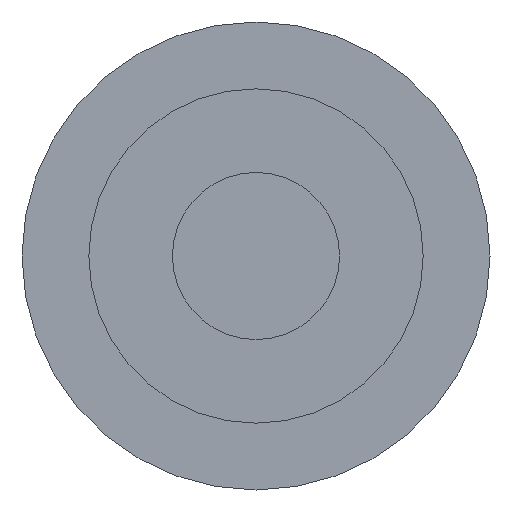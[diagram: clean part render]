
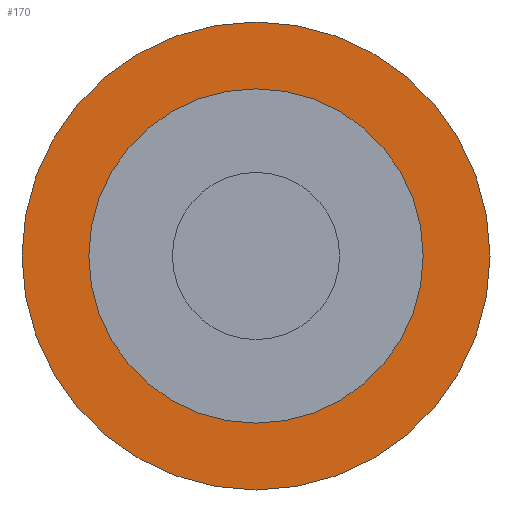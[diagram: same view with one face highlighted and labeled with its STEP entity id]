
A CAD part, front view. The second image highlights one B-rep face of the part: STEP entity #170.
In plain terms, the highlighted planar face has unit normal (0, -1, 0).
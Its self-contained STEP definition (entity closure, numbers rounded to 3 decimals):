
#41=FACE_BOUND('',#72,.T.);
#54=FACE_OUTER_BOUND('',#71,.T.);
#71=EDGE_LOOP('',(#149));
#72=EDGE_LOOP('',(#150));
#82=CIRCLE('',#206,2.5);
#84=CIRCLE('',#209,7.);
#94=VERTEX_POINT('',#303);
#96=VERTEX_POINT('',#309);
#111=EDGE_CURVE('',#94,#94,#82,.T.);
#114=EDGE_CURVE('',#96,#96,#84,.T.);
#149=ORIENTED_EDGE('',*,*,#114,.F.);
#150=ORIENTED_EDGE('',*,*,#111,.F.);
#157=PLANE('',#211);
#170=ADVANCED_FACE('',(#54,#41),#157,.F.);
#206=AXIS2_PLACEMENT_3D('',#305,#257,#258);
#209=AXIS2_PLACEMENT_3D('',#311,#264,#265);
#211=AXIS2_PLACEMENT_3D('',#313,#268,#269);
#257=DIRECTION('center_axis',(0.,-1.,0.));
#258=DIRECTION('ref_axis',(-1.,0.,0.));
#264=DIRECTION('center_axis',(0.,1.,0.));
#265=DIRECTION('ref_axis',(-1.,0.,0.));
#268=DIRECTION('center_axis',(0.,1.,0.));
#269=DIRECTION('ref_axis',(-1.,0.,0.));
#303=CARTESIAN_POINT('',(2.5,20.,0.));
#305=CARTESIAN_POINT('Origin',(0.,20.,0.));
#309=CARTESIAN_POINT('',(7.,20.,0.));
#311=CARTESIAN_POINT('Origin',(0.,20.,0.));
#313=CARTESIAN_POINT('Origin',(0.,20.,0.));
